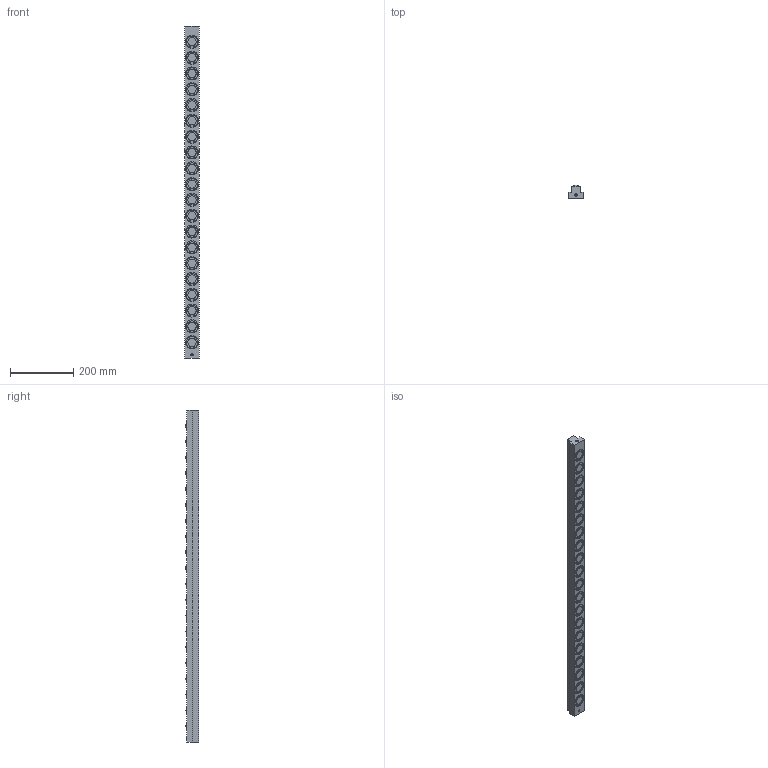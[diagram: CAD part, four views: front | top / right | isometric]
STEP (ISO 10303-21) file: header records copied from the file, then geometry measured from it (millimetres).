
FILE_DESCRIPTION (( 'STEP AP203' ), '1' );
FILE_NAME ('PVL50T-20.STEP', '2015-12-24T09:09:34', ( '' ), ( '' ), 'SwSTEP 2.0', 'SolidWorks 2013', '' );
FILE_SCHEMA (( 'CONFIG_CONTROL_DESIGN' ));
Length unit declared in the file: millimetre
Products named in the file (1): PVL50T-20
Bounding box: 45 x 42 x 1050 mm (x, y, z)
Volume: 1418195.2 mm3; surface area: 209036 mm2
Topology: 1 solids, 1 shells, 642 faces, 1512 edges, 1013 vertices
Faces by surface type: cylinder 406, plane 192, sphere 40, cone 4
Entity records: 19043 total; most frequent: DIRECTION 3732, CARTESIAN_POINT 3166, ORIENTED_EDGE 3020, AXIS2_PLACEMENT_3D 1579, EDGE_CURVE 1510, VERTEX_POINT 1013, CIRCLE 936, EDGE_LOOP 787
